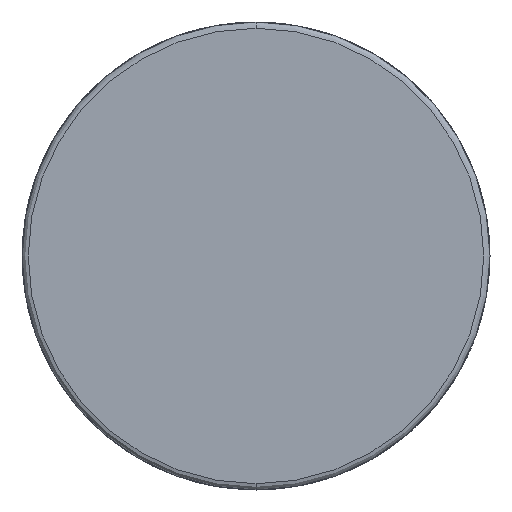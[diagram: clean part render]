
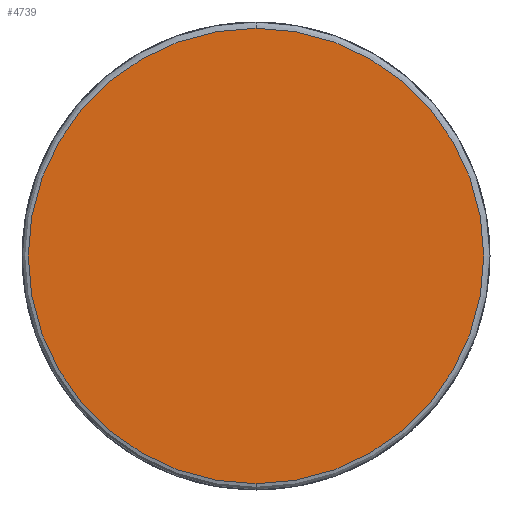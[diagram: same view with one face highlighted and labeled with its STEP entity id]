
A CAD part, front view. The second image highlights one B-rep face of the part: STEP entity #4739.
In plain terms, the highlighted planar face has unit normal (0, -1, 0).
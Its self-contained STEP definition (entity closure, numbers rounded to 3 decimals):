
#2329 = VERTEX_POINT ( 'NONE', #5165 ) ;
#3010 = PLANE ( 'NONE',  #21590 ) ;
#3013 = DIRECTION ( 'NONE',  ( 0., -1., 0. ) ) ;
#4739 = ADVANCED_FACE ( 'NONE', ( #13039 ), #3010, .F. ) ;
#4911 = DIRECTION ( 'NONE',  ( 0., 1., 0. ) ) ;
#5035 = DIRECTION ( 'NONE',  ( 0., -1., 0. ) ) ;
#5165 = CARTESIAN_POINT ( 'NONE',  ( 0., 0., 14.6 ) ) ;
#7227 = ORIENTED_EDGE ( 'NONE', *, *, #10313, .T. ) ;
#10175 = CARTESIAN_POINT ( 'NONE',  ( 0., 0., -14.6 ) ) ;
#10313 = EDGE_CURVE ( 'NONE', #14788, #2329, #21229, .T. ) ;
#12068 = EDGE_LOOP ( 'NONE', ( #18294, #7227 ) ) ;
#13039 = FACE_OUTER_BOUND ( 'NONE', #12068, .T. ) ;
#13490 = EDGE_CURVE ( 'NONE', #2329, #14788, #20320, .T. ) ;
#14317 = CARTESIAN_POINT ( 'NONE',  ( 0., 0., 0. ) ) ;
#14788 = VERTEX_POINT ( 'NONE', #10175 ) ;
#16106 = AXIS2_PLACEMENT_3D ( 'NONE', #14317, #3013, #16218 ) ;
#16218 = DIRECTION ( 'NONE',  ( 0., 0., 1. ) ) ;
#16331 = CARTESIAN_POINT ( 'NONE',  ( 0., 0., 0. ) ) ;
#18108 = DIRECTION ( 'NONE',  ( 0., 0., 1. ) ) ;
#18233 = DIRECTION ( 'NONE',  ( 0., 0., 1. ) ) ;
#18294 = ORIENTED_EDGE ( 'NONE', *, *, #13490, .T. ) ;
#19932 = CARTESIAN_POINT ( 'NONE',  ( 0., 0., 0. ) ) ;
#20320 = CIRCLE ( 'NONE', #16106, 14.6 ) ;
#21229 = CIRCLE ( 'NONE', #22255, 14.6 ) ;
#21590 = AXIS2_PLACEMENT_3D ( 'NONE', #19932, #4911, #18108 ) ;
#22255 = AXIS2_PLACEMENT_3D ( 'NONE', #16331, #5035, #18233 ) ;
